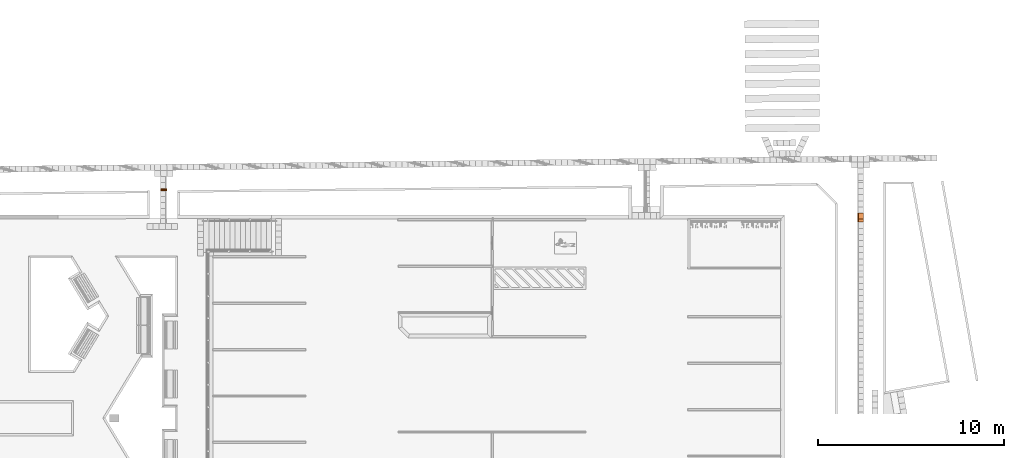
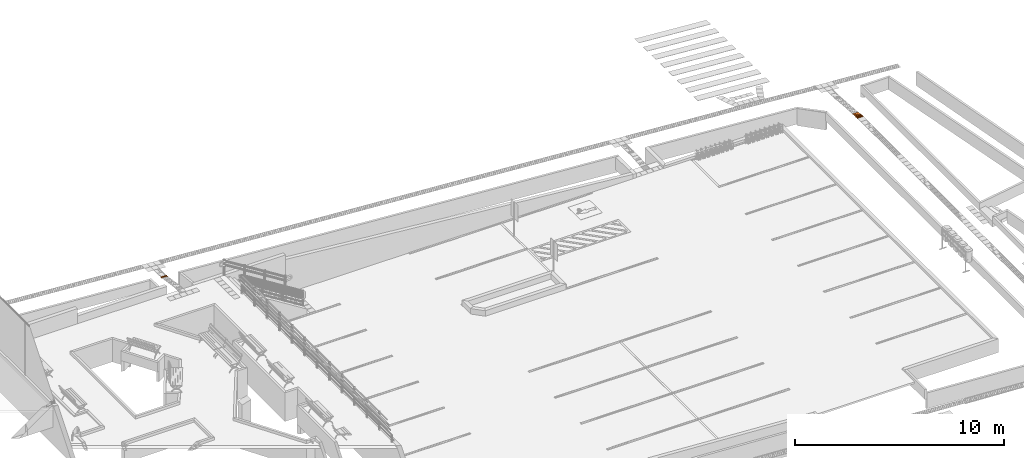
# One storey, part 232 of 237: 3 proxies.
"""IFC2X3 building model written with IfcOpenShell, lengths in millimetres."""

import ifcopenshell
import ifcopenshell.guid

model = None  # the IFC model being written
_history = None  # IfcOwnerHistory: only IFC2X3 demands one
_inside = {}  # id of a spatial element -> (the spatial element, [elements in it])
_under = {}  # id of a project, library or spatial element -> (it, [spatial elements below it])
_declared = {}  # id of a project -> (the project, [libraries it declares])
_typed = {}  # id of a type object -> (the type object, [elements of that type])
_made_of = {}  # id of a material, layer set ... -> (it, [elements and type objects made of it])


def new_model(schema):
    """Start an empty IFC model of exactly this schema.

    Asked for "IFC4X3", IfcOpenShell would pick the latest addendum, in which some entities
    have other attributes; the version numbers below select the first issue.
    IFC2X3 requires an IfcOwnerHistory on every rooted entity: one is made here for all.
    """
    global model, _history
    if schema == "IFC4X3":
        model = ifcopenshell.file(schema_version=(4, 3, 0, 0))
    else:
        model = ifcopenshell.file(schema=schema)
    _inside.clear()
    _under.clear()
    _declared.clear()
    _typed.clear()
    _made_of.clear()
    _history = None
    if model.schema == "IFC2X3":
        org = make("IfcOrganization", Name="unknown")
        user = make(
            "IfcPersonAndOrganization",
            ThePerson=make("IfcPerson", FamilyName="unknown"),
            TheOrganization=org,
        )
        app = make(
            "IfcApplication",
            ApplicationDeveloper=org,
            Version="unknown",
            ApplicationFullName="unknown",
            ApplicationIdentifier="unknown",
        )
        _history = make(
            "IfcOwnerHistory",
            OwningUser=user,
            OwningApplication=app,
            ChangeAction="ADDED",
            CreationDate=0,
        )
    return model


def make(cls, **values):
    """One entity of the class cls with the attributes given. An attribute that is None is left unset."""
    return model.create_entity(
        cls, **{name: value for name, value in values.items() if value is not None}
    )


def entity(cls, *values):
    """Any entity or typed value of the class cls, its attributes in the order of the schema. None: left unset."""
    e = model.create_entity(cls)
    for i, value in enumerate(values):
        if value is not None:
            e[i] = value
    return e


def rooted(cls, **values):
    """An entity with a GlobalId (a new one), such as an element, a storey or a relation."""
    return make(cls, GlobalId=ifcopenshell.guid.new(), OwnerHistory=_history, **values)


def si_unit(unit_type, name, prefix=None):
    """IfcSIUnit, for example si_unit("LENGTHUNIT", "METRE", prefix="MILLI")."""
    return make("IfcSIUnit", UnitType=unit_type, Prefix=prefix, Name=name)


def converted_unit(unit_type, name, factor, base, dimensions=None, offset=None):
    """IfcConversionBasedUnit, such as the inch: factor (a typed value) times the base unit."""
    return make(
        "IfcConversionBasedUnit"
        if offset is None
        else "IfcConversionBasedUnitWithOffset",
        ConversionOffset=offset,
        Dimensions=None
        if dimensions is None
        else entity("IfcDimensionalExponents", *dimensions),
        UnitType=unit_type,
        Name=name,
        ConversionFactor=make(
            "IfcMeasureWithUnit", ValueComponent=factor, UnitComponent=base
        ),
    )


def derived_unit(unit_type, elements):
    """IfcDerivedUnit: a product of units, each with its exponent."""
    return make(
        "IfcDerivedUnit",
        Elements=[
            make("IfcDerivedUnitElement", Unit=unit, Exponent=power)
            for unit, power in elements
        ],
        UnitType=unit_type,
    )


def money_unit(currency):
    """IfcMonetaryUnit."""
    return make("IfcMonetaryUnit", Currency=currency)


def assignment(units):
    """IfcUnitAssignment: the units of a project."""
    return None if units is None else make("IfcUnitAssignment", Units=units)


def point(xyz):
    """IfcCartesianPoint."""
    return None if xyz is None else make("IfcCartesianPoint", Coordinates=xyz)


def direction(xyz):
    """IfcDirection."""
    return None if xyz is None else make("IfcDirection", DirectionRatios=xyz)


def frame(location, z_axis=None, x_axis=None):
    """IfcAxis2Placement3D, a coordinate frame: its origin and axes. An axis left out is left unset."""
    return make(
        "IfcAxis2Placement3D",
        Location=point(location),
        Axis=direction(z_axis),
        RefDirection=direction(x_axis),
    )


def origin_with_axes():
    """The frame at (0, 0, 0) with the z axis (0, 0, 1) and the x axis (1, 0, 0) written out."""
    return frame((0.0, 0.0, 0.0), z_axis=(0.0, 0.0, 1.0), x_axis=(1.0, 0.0, 0.0))


def place(relative_to, where):
    """IfcLocalPlacement: puts the frame where relative to a parent placement (None: the world)."""
    return make(
        "IfcLocalPlacement", PlacementRelTo=relative_to, RelativePlacement=where
    )


def context(
    kind, dimensions, precision=None, world=None, true_north=None, identifier=None
):
    """IfcGeometricRepresentationContext, for example the 3D "Model" context."""
    return make(
        "IfcGeometricRepresentationContext",
        ContextIdentifier=identifier,
        ContextType=kind,
        CoordinateSpaceDimension=dimensions,
        Precision=precision,
        WorldCoordinateSystem=world,
        TrueNorth=true_north,
    )


def subcontext(parent, identifier, kind, view, scale=None):
    """IfcGeometricRepresentationSubContext, for example "Body" below "Model"."""
    return make(
        "IfcGeometricRepresentationSubContext",
        ContextIdentifier=identifier,
        ContextType=kind,
        ParentContext=parent,
        TargetScale=scale,
        TargetView=view,
    )


def project(units=None, contexts=None):
    """IfcProject with its units and contexts."""
    return rooted(
        "IfcProject",
        Name="project",
        RepresentationContexts=contexts,
        UnitsInContext=assignment(units),
    )


def spatial(cls, under=None, at=None, **own):
    """A site, building, storey or space (cls), placed at a placement, below another one or the project."""
    s = rooted(cls, ObjectPlacement=at, **own)
    if under is not None:
        _under.setdefault(under.id(), (under, []))[1].append(s)
    return s


def faces_of(points, faces, orient=None, outer=None):
    """IfcFace entities. A face is a list of loops; a loop is a list of indices into points, from 0.

    orient and outer hold one flag for each loop. By default every Orientation is true, the
    first loop of a face is its IfcFaceOuterBound and the others are IfcFaceBound.
    """
    made = []
    for i, loops in enumerate(faces):
        bounds = []
        for j, loop in enumerate(loops):
            is_outer = j == 0 if outer is None else outer[i][j]
            bounds.append(
                make(
                    "IfcFaceOuterBound" if is_outer else "IfcFaceBound",
                    Bound=make("IfcPolyLoop", Polygon=[points[k] for k in loop]),
                    Orientation=True if orient is None else orient[i][j],
                )
            )
        made.append(make("IfcFace", Bounds=bounds))
    return made


def open_shell(faces, orient=None, outer=None):
    """The faces of one IfcOpenShell. surface_model builds it on its shared points."""
    return ("IfcOpenShell", faces, orient, outer)


def surface_model(cls, points, shells):
    """IfcFaceBasedSurfaceModel or IfcShellBasedSurfaceModel (cls): surfaces that need not close."""
    shared = [point(p) for p in points]
    made = [make(c, CfsFaces=faces_of(shared, fs, o, b)) for c, fs, o, b in shells]
    if cls == "IfcFaceBasedSurfaceModel":
        return make(cls, FbsmFaces=made)
    return make(cls, SbsmBoundary=made)


def shape(context_of_items, identifier, shape_type, items):
    """IfcShapeRepresentation: the items that make up one representation, for example the "Body"."""
    return make(
        "IfcShapeRepresentation",
        ContextOfItems=context_of_items,
        RepresentationIdentifier=identifier,
        RepresentationType=shape_type,
        Items=items,
    )


def made_of(thing, what):
    """Note that an element or type object is made of a material, layer set ...; save() writes the relation."""
    if what is not None:
        _made_of.setdefault(what.id(), (what, []))[1].append(thing)
    return thing


def type_object(cls, material=None, **own):
    """A type object (cls), such as IfcWallType, which elements share."""
    return made_of(rooted(cls, **own), material)


def element(
    cls,
    number,
    at=None,
    inside=None,
    cuts=None,
    type_object=None,
    material=None,
    context=None,
    identifier="Body",
    shape_type=None,
    held_by="IfcProductDefinitionShape",
    body=None,
    shapes=None,
    **own,
):
    """One element of the class cls, such as IfcWall. Its Tag is "e" and its number.

    at: its placement. inside: the storey or other place that contains it. cuts: it is an
    opening in that element (IfcRelVoidsElement). A single representation is given by context,
    identifier, shape_type and body (its items); several are given by shapes. held_by: the class
    of the entity that holds the representations. save() writes the other relations.
    """
    e = rooted(cls, Tag="e%d" % number, ObjectPlacement=at, **own)
    if body is not None:
        shapes = [shape(context, identifier, shape_type, body)]
    if shapes is not None:
        e.Representation = make(held_by, Representations=shapes)
    if inside is not None:
        _inside.setdefault(inside.id(), (inside, []))[1].append(e)
    if cuts is not None:
        rooted(
            "IfcRelVoidsElement", RelatingBuildingElement=cuts, RelatedOpeningElement=e
        )
    if type_object is not None:
        _typed.setdefault(type_object.id(), (type_object, []))[1].append(e)
    return made_of(e, material)


def aggregate(whole, parts):
    """IfcRelAggregates: a whole, such as a stair, and the parts it consists of."""
    return rooted("IfcRelAggregates", RelatingObject=whole, RelatedObjects=parts)


def save(model, path):
    """Write the relations noted so far, then the file.

    IfcRelAggregates (storeys below a building ...), IfcRelContainedInSpatialStructure (elements
    in a storey), IfcRelDefinesByType, IfcRelAssociatesMaterial and IfcRelDeclares: one each for
    every whole, place, type object, material and project.
    """
    for whole, parts in _under.values():
        aggregate(whole, parts)
    for where, things in _inside.values():
        rooted(
            "IfcRelContainedInSpatialStructure",
            RelatedElements=things,
            RelatingStructure=where,
        )
    for kind, things in _typed.values():
        rooted("IfcRelDefinesByType", RelatedObjects=things, RelatingType=kind)
    for what, things in _made_of.values():
        rooted("IfcRelAssociatesMaterial", RelatedObjects=things, RelatingMaterial=what)
    for by, libraries in _declared.values():
        rooted("IfcRelDeclares", RelatingContext=by, RelatedDefinitions=libraries)
    model.write(path)


model = new_model("IFC2X3")

# Units and contexts
model_context = context("Model", 3, precision=0.01, world=origin_with_axes(), true_north=direction((0.0, 1.0)))
body_context = subcontext(model_context, "Body", "Model", "MODEL_VIEW")
ifc_project = project(units=[si_unit("LENGTHUNIT", "METRE", prefix="MILLI"), si_unit("AREAUNIT", "SQUARE_METRE"), si_unit("VOLUMEUNIT", "CUBIC_METRE"), converted_unit("PLANEANGLEUNIT", "DEGREE", entity("IfcPlaneAngleMeasure", 0.0174532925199), si_unit("PLANEANGLEUNIT", "RADIAN"), dimensions=[0, 0, 0, 0, 0, 0, 0]), money_unit("USD"), converted_unit("TIMEUNIT", "Year", entity("IfcTimeMeasure", 31556926.0), si_unit("TIMEUNIT", "SECOND"), dimensions=[0, 0, 1, 0, 0, 0, 0]), si_unit("MASSUNIT", "GRAM", prefix="KILO"), si_unit("THERMODYNAMICTEMPERATUREUNIT", "DEGREE_CELSIUS"), si_unit("LUMINOUSINTENSITYUNIT", "LUMEN"), si_unit("ENERGYUNIT", "JOULE", prefix="MEGA"), derived_unit("THERMALCONDUCTANCEUNIT", [(si_unit("POWERUNIT", "WATT"), 1), (si_unit("LENGTHUNIT", "METRE"), -1), (si_unit("THERMODYNAMICTEMPERATUREUNIT", "KELVIN"), -1)]), derived_unit("SPECIFICHEATCAPACITYUNIT", [(si_unit("ENERGYUNIT", "JOULE"), 1), (si_unit("MASSUNIT", "GRAM", prefix="KILO"), -1), (si_unit("THERMODYNAMICTEMPERATUREUNIT", "KELVIN"), -1)]), derived_unit("MASSDENSITYUNIT", [(si_unit("MASSUNIT", "GRAM", prefix="KILO"), 1), (si_unit("VOLUMEUNIT", "CUBIC_METRE"), -1)])], contexts=[model_context])

# Site, building, storey
site_placement = place(None, origin_with_axes())
site = spatial("IfcSite", under=ifc_project, at=site_placement, Name="Local", CompositionType="ELEMENT")
building_placement = place(site_placement, origin_with_axes())
building = spatial("IfcBuilding", under=site, at=building_placement, Name="Construção", CompositionType="ELEMENT")
storey_placement = place(building_placement, origin_with_axes())
storey = spatial("IfcBuildingStorey", under=building, at=storey_placement, Name="Pavimento Térreo", CompositionType="ELEMENT", Elevation=0.0)

# Proxies
building_element_proxy_type = type_object("IfcBuildingElementProxyType", Name="Piso Direcional 27", PredefinedType="NOTDEFINED")
proxy_1_placement = place(storey_placement, frame((97801.7189326, 36071.4514011, -5186.38961676), z_axis=(0.0, 0.0, 1.0), x_axis=(0.0, -1.0, 0.0)))
element("IfcBuildingElementProxy", 1, at=proxy_1_placement, inside=storey, type_object=building_element_proxy_type, Name="Objeto-0055", context=body_context, shape_type="SurfaceModel", body=[
    surface_model("IfcShellBasedSurfaceModel", [(-0.06669038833, -46.8098794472, 7.64196157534), (99.4543591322, -46.8098794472, 8.5104686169), (99.4000983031, -40.7216835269, 14.7281437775), (-0.120951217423, -40.7216835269, 13.859636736)], [open_shell([[[0, 1, 2, 3]]])]),
    surface_model("IfcShellBasedSurfaceModel", [(99.4992223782, -153.790778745, 3.36964981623), (99.7201545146, 175.23662949, -21.9466654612), (99.6041436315, 176.259549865, -8.65313496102), (99.5891651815, 153.952606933, -6.93677460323), (99.5274151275, 148.887331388, 0.139080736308), (99.5124366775, 126.580388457, 1.8554410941), (99.5666975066, 120.492192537, -4.36223406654), (99.5329959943, 70.3015709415, -0.500423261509), (99.4712459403, 65.2362953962, 6.57543207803), (99.4562674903, 42.929352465, 8.29179243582), (99.5105283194, 36.8411565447, 2.07411727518), (99.4768268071, -13.3494650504, 5.93592808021), (99.415076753, -18.4147405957, 13.0117834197), (99.4000983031, -40.7216835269, 14.7281437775), (99.4543591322, -46.8098794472, 8.5104686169), (99.4206576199, -97.0005010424, 12.3722794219), (99.3589075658, -102.065776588, 19.4481347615), (99.3439291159, -124.372719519, 21.1644951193), (99.398189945, -130.460915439, 14.9468199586), (99.3832114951, -152.76785837, 16.6631803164)], [open_shell([[[0, 1, 2, 3, 4, 5, 6, 7, 8, 9, 10, 11, 12, 13, 14, 15, 16, 17, 18, 19]]])]),
    surface_model("IfcShellBasedSurfaceModel", [(-0.105972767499, -18.4147405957, 12.1432763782), (99.415076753, -18.4147405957, 13.0117834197), (99.4768268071, -13.3494650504, 5.93592808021), (-0.0442227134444, -13.3494650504, 5.06742103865)], [open_shell([[[0, 1, 2, 3]]])]),
    surface_model("IfcShellBasedSurfaceModel", [(-0.162141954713, -102.065776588, 18.5796277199), (99.3589075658, -102.065776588, 19.4481347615), (99.4206576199, -97.0005010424, 12.3722794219), (-0.100391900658, -97.0005010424, 11.5037723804)], [open_shell([[[0, 1, 2, 3]]])]),
    surface_model("IfcShellBasedSurfaceModel", [(-0.049803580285, 65.2362953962, 5.70692503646), (99.4712459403, 65.2362953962, 6.57543207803), (99.5329959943, 70.3015709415, -0.500423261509), (0.0119464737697, 70.3015709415, -1.36893030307)], [open_shell([[[0, 1, 2, 3]]])]),
    surface_model("IfcShellBasedSurfaceModel", [(-0.010521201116, 36.8411565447, 1.20561023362), (99.5105283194, 36.8411565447, 2.07411727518), (99.4562674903, 42.929352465, 8.29179243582), (-0.0647820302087, 42.929352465, 7.42328539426)], [open_shell([[[0, 1, 2, 3]]])]),
    surface_model("IfcShellBasedSurfaceModel", [(-0.122859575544, -130.460915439, 14.0783129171), (99.398189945, -130.460915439, 14.9468199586), (99.3439291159, -124.372719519, 21.1644951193), (-0.177120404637, -124.372719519, 20.2959880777)], [open_shell([[[0, 1, 2, 3]]])]),
    surface_model("IfcShellBasedSurfaceModel", [(0.0830941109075, 176.259549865, -9.52164200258), (0.0681156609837, 153.952606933, -7.80528164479), (99.5891651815, 153.952606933, -6.93677460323), (99.6041436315, 176.259549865, -8.65313496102)], [open_shell([[[0, 1, 2, 3]]])]),
    surface_model("IfcShellBasedSurfaceModel", [(0.0456479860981, 120.492192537, -5.2307411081), (99.5666975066, 120.492192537, -4.36223406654), (99.5124366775, 126.580388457, 1.8554410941), (-0.00861284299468, 126.580388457, 0.986934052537)], [open_shell([[[0, 1, 2, 3]]])]),
    surface_model("IfcShellBasedSurfaceModel", [(0.00636560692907, 148.887331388, -0.729426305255), (99.5274151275, 148.887331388, 0.139080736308), (99.5891651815, 153.952606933, -6.93677460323), (0.0681156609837, 153.952606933, -7.80528164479)], [open_shell([[[0, 1, 2, 3]]])]),
    surface_model("IfcShellBasedSurfaceModel", [(-0.010521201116, 36.8411565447, 1.20561023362), (-0.0442227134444, -13.3494650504, 5.06742103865), (99.4768268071, -13.3494650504, 5.93592808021), (99.5105283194, 36.8411565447, 2.07411727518)], [open_shell([[[0, 1, 2, 3]]])]),
    surface_model("IfcShellBasedSurfaceModel", [(0.0456479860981, 120.492192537, -5.2307411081), (0.0119464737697, 70.3015709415, -1.36893030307), (99.5329959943, 70.3015709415, -0.500423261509), (99.5666975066, 120.492192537, -4.36223406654)], [open_shell([[[0, 1, 2, 3]]])]),
    surface_model("IfcShellBasedSurfaceModel", [(0.00636560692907, 148.887331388, -0.729426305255), (-0.00861284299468, 126.580388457, 0.986934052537), (99.5124366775, 126.580388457, 1.8554410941), (99.5274151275, 148.887331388, 0.139080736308)], [open_shell([[[0, 1, 2, 3]]])]),
    surface_model("IfcShellBasedSurfaceModel", [(0.0456479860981, 120.492192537, -5.2307411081), (-0.00861284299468, 126.580388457, 0.986934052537), (0.00636560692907, 148.887331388, -0.729426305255), (0.0681156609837, 153.952606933, -7.80528164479), (0.0830941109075, 176.259549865, -9.52164200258), (0.199104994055, 175.23662949, -22.8151725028), (-0.0218271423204, -153.790778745, 2.50114277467), (-0.137838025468, -152.76785837, 15.7946732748), (-0.122859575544, -130.460915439, 14.0783129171), (-0.177120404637, -124.372719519, 20.2959880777), (-0.162141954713, -102.065776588, 18.5796277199), (-0.100391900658, -97.0005010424, 11.5037723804), (-0.06669038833, -46.8098794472, 7.64196157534), (-0.120951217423, -40.7216835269, 13.859636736), (-0.105972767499, -18.4147405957, 12.1432763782), (-0.0442227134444, -13.3494650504, 5.06742103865), (-0.010521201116, 36.8411565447, 1.20561023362), (-0.0647820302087, 42.929352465, 7.42328539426), (-0.049803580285, 65.2362953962, 5.70692503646), (0.0119464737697, 70.3015709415, -1.36893030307)], [open_shell([[[0, 1, 2, 3, 4, 5, 6, 7, 8, 9, 10, 11, 12, 13, 14, 15, 16, 17, 18, 19]]])]),
    surface_model("IfcShellBasedSurfaceModel", [(99.4000983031, -40.7216835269, 14.7281437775), (99.415076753, -18.4147405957, 13.0117834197), (-0.105972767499, -18.4147405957, 12.1432763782), (-0.120951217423, -40.7216835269, 13.859636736)], [open_shell([[[0, 1, 2, 3]]])]),
    surface_model("IfcShellBasedSurfaceModel", [(-0.06669038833, -46.8098794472, 7.64196157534), (-0.100391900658, -97.0005010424, 11.5037723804), (99.4206576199, -97.0005010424, 12.3722794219), (99.4543591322, -46.8098794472, 8.5104686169)], [open_shell([[[0, 1, 2, 3]]])]),
    surface_model("IfcShellBasedSurfaceModel", [(99.4562674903, 42.929352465, 8.29179243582), (99.4712459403, 65.2362953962, 6.57543207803), (-0.049803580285, 65.2362953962, 5.70692503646), (-0.0647820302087, 42.929352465, 7.42328539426)], [open_shell([[[0, 1, 2, 3]]])]),
    surface_model("IfcShellBasedSurfaceModel", [(99.3439291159, -124.372719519, 21.1644951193), (99.3589075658, -102.065776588, 19.4481347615), (-0.162141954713, -102.065776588, 18.5796277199), (-0.177120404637, -124.372719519, 20.2959880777)], [open_shell([[[0, 1, 2, 3]]])]),
    surface_model("IfcShellBasedSurfaceModel", [(99.7201545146, 175.23662949, -21.9466654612), (0.199104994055, 175.23662949, -22.8151725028), (0.0830941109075, 176.259549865, -9.52164200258), (99.6041436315, 176.259549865, -8.65313496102)], [open_shell([[[0, 1, 2, 3]]])]),
    surface_model("IfcShellBasedSurfaceModel", [(99.4992223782, -153.790778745, 3.36964981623), (-0.0218271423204, -153.790778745, 2.50114277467), (0.199104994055, 175.23662949, -22.8151725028), (99.7201545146, 175.23662949, -21.9466654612)], [open_shell([[[0, 1, 2, 3]]])]),
    surface_model("IfcShellBasedSurfaceModel", [(99.3832114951, -152.76785837, 16.6631803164), (99.398189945, -130.460915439, 14.9468199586), (-0.122859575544, -130.460915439, 14.0783129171), (-0.137838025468, -152.76785837, 15.7946732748)], [open_shell([[[0, 1, 2, 3]]])]),
    surface_model("IfcShellBasedSurfaceModel", [(-0.0218271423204, -153.790778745, 2.50114277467), (99.4992223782, -153.790778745, 3.36964981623), (99.3832114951, -152.76785837, 16.6631803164), (-0.137838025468, -152.76785837, 15.7946732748)], [open_shell([[[0, 1, 2, 3]]])]),
])
proxy_2_placement = place(storey_placement, frame((135346.086311, 34760.1183763, -7981.55592405), z_axis=(0.0, 0.0, 1.0), x_axis=(0.0, -1.0, 0.0)))
element("IfcBuildingElementProxy", 2, at=proxy_2_placement, inside=storey, type_object=building_element_proxy_type, Name="Objeto-0055", context=body_context, shape_type="SurfaceModel", body=[
    surface_model("IfcShellBasedSurfaceModel", [(-0.441716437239, -47.0050131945, 6.31683934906), (328.754420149, -47.0050131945, 29.3364756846), (328.308991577, -41.0928052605, 35.7064010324), (-0.88714500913, -41.0928052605, 12.6867646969)], [open_shell([[[0, 1, 2, 3]]])]),
    surface_model("IfcShellBasedSurfaceModel", [(329.321267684, -153.800656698, 21.2301782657), (330.445771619, 175.805368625, 5.14902277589), (329.516795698, 176.456698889, 18.4339973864), (329.440558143, 154.11052768, 19.5242452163), (328.957010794, 148.84965001, 26.439294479), (328.880773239, 126.503478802, 27.5295423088), (329.326201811, 120.591270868, 21.159616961), (329.154667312, 70.3123856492, 23.6126745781), (328.671119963, 65.051507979, 30.5277238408), (328.594882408, 42.7053367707, 31.6179716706), (329.04031098, 36.7931288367, 25.2480463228), (328.868776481, -13.485756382, 27.7011039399), (328.385229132, -18.7466340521, 34.6161532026), (328.308991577, -41.0928052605, 35.7064010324), (328.754420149, -47.0050131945, 29.3364756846), (328.58288565, -97.2838984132, 31.7895333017), (328.0993383, -102.544776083, 38.7045825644), (328.023100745, -124.890947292, 39.7948303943), (328.468529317, -130.803155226, 33.4249050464), (328.392291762, -153.149326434, 34.5151528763)], [open_shell([[[0, 1, 2, 3, 4, 5, 6, 7, 8, 9, 10, 11, 12, 13, 14, 15, 16, 17, 18, 19]]])]),
    surface_model("IfcShellBasedSurfaceModel", [(-0.810907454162, -18.7466340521, 11.5965168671), (328.385229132, -18.7466340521, 34.6161532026), (328.868776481, -13.485756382, 27.7011039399), (-0.327360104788, -13.485756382, 4.68146760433)], [open_shell([[[0, 1, 2, 3]]])]),
    surface_model("IfcShellBasedSurfaceModel", [(-1.09679828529, -102.544776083, 15.6849462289), (328.0993383, -102.544776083, 38.7045825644), (328.58288565, -97.2838984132, 31.7895333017), (-0.613250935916, -97.2838984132, 8.76989696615)], [open_shell([[[0, 1, 2, 3]]])]),
    surface_model("IfcShellBasedSurfaceModel", [(-0.525016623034, 65.051507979, 7.50808750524), (328.671119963, 65.051507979, 30.5277238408), (329.154667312, 70.3123856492, 23.6126745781), (-0.0414692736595, 70.3123856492, 0.593038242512)], [open_shell([[[0, 1, 2, 3]]])]),
    surface_model("IfcShellBasedSurfaceModel", [(-0.155825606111, 36.7931288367, 2.22840998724), (329.04031098, 36.7931288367, 25.2480463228), (328.594882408, 42.7053367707, 31.6179716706), (-0.601254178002, 42.7053367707, 8.59833533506)], [open_shell([[[0, 1, 2, 3]]])]),
    surface_model("IfcShellBasedSurfaceModel", [(-0.727607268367, -130.803155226, 10.4052687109), (328.468529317, -130.803155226, 33.4249050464), (328.023100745, -124.890947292, 39.7948303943), (-1.17303584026, -124.890947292, 16.7751940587)], [open_shell([[[0, 1, 2, 3]]])]),
    surface_model("IfcShellBasedSurfaceModel", [(0.320659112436, 176.456698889, -4.58563894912), (0.244421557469, 154.11052768, -3.49539111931), (329.440558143, 154.11052768, 19.5242452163), (329.516795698, 176.456698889, 18.4339973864)], [open_shell([[[0, 1, 2, 3]]])]),
    surface_model("IfcShellBasedSurfaceModel", [(0.130065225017, 120.591270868, -1.86001937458), (329.326201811, 120.591270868, 21.159616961), (328.880773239, 126.503478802, 27.5295423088), (-0.315363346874, 126.503478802, 4.50990597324)], [open_shell([[[0, 1, 2, 3]]])]),
    surface_model("IfcShellBasedSurfaceModel", [(-0.239125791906, 148.84965001, 3.41965814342), (328.957010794, 148.84965001, 26.439294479), (329.440558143, 154.11052768, 19.5242452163), (0.244421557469, 154.11052768, -3.49539111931)], [open_shell([[[0, 1, 2, 3]]])]),
    surface_model("IfcShellBasedSurfaceModel", [(-0.155825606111, 36.7931288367, 2.22840998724), (-0.327360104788, -13.485756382, 4.68146760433), (328.868776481, -13.485756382, 27.7011039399), (329.04031098, 36.7931288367, 25.2480463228)], [open_shell([[[0, 1, 2, 3]]])]),
    surface_model("IfcShellBasedSurfaceModel", [(0.130065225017, 120.591270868, -1.86001937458), (-0.0414692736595, 70.3123856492, 0.593038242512), (329.154667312, 70.3123856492, 23.6126745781), (329.326201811, 120.591270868, 21.159616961)], [open_shell([[[0, 1, 2, 3]]])]),
    surface_model("IfcShellBasedSurfaceModel", [(-0.239125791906, 148.84965001, 3.41965814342), (-0.315363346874, 126.503478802, 4.50990597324), (328.880773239, 126.503478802, 27.5295423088), (328.957010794, 148.84965001, 26.439294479)], [open_shell([[[0, 1, 2, 3]]])]),
    surface_model("IfcShellBasedSurfaceModel", [(0.130065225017, 120.591270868, -1.86001937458), (-0.315363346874, 126.503478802, 4.50990597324), (-0.239125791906, 148.84965001, 3.41965814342), (0.244421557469, 154.11052768, -3.49539111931), (0.320659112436, 176.456698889, -4.58563894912), (1.2496350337, 175.805368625, -17.8706135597), (0.125131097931, -153.800656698, -1.78945806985), (-0.803844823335, -153.149326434, 11.4955165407), (-0.727607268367, -130.803155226, 10.4052687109), (-1.17303584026, -124.890947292, 16.7751940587), (-1.09679828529, -102.544776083, 15.6849462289), (-0.613250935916, -97.2838984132, 8.76989696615), (-0.441716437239, -47.0050131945, 6.31683934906), (-0.88714500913, -41.0928052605, 12.6867646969), (-0.810907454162, -18.7466340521, 11.5965168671), (-0.327360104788, -13.485756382, 4.68146760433), (-0.155825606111, 36.7931288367, 2.22840998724), (-0.601254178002, 42.7053367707, 8.59833533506), (-0.525016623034, 65.051507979, 7.50808750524), (-0.0414692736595, 70.3123856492, 0.593038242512)], [open_shell([[[0, 1, 2, 3, 4, 5, 6, 7, 8, 9, 10, 11, 12, 13, 14, 15, 16, 17, 18, 19]]])]),
    surface_model("IfcShellBasedSurfaceModel", [(328.308991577, -41.0928052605, 35.7064010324), (328.385229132, -18.7466340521, 34.6161532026), (-0.810907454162, -18.7466340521, 11.5965168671), (-0.88714500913, -41.0928052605, 12.6867646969)], [open_shell([[[0, 1, 2, 3]]])]),
    surface_model("IfcShellBasedSurfaceModel", [(-0.441716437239, -47.0050131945, 6.31683934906), (-0.613250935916, -97.2838984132, 8.76989696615), (328.58288565, -97.2838984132, 31.7895333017), (328.754420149, -47.0050131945, 29.3364756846)], [open_shell([[[0, 1, 2, 3]]])]),
    surface_model("IfcShellBasedSurfaceModel", [(328.594882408, 42.7053367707, 31.6179716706), (328.671119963, 65.051507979, 30.5277238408), (-0.525016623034, 65.051507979, 7.50808750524), (-0.601254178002, 42.7053367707, 8.59833533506)], [open_shell([[[0, 1, 2, 3]]])]),
    surface_model("IfcShellBasedSurfaceModel", [(328.023100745, -124.890947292, 39.7948303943), (328.0993383, -102.544776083, 38.7045825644), (-1.09679828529, -102.544776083, 15.6849462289), (-1.17303584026, -124.890947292, 16.7751940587)], [open_shell([[[0, 1, 2, 3]]])]),
    surface_model("IfcShellBasedSurfaceModel", [(330.445771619, 175.805368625, 5.14902277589), (1.2496350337, 175.805368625, -17.8706135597), (0.320659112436, 176.456698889, -4.58563894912), (329.516795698, 176.456698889, 18.4339973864)], [open_shell([[[0, 1, 2, 3]]])]),
    surface_model("IfcShellBasedSurfaceModel", [(329.321267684, -153.800656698, 21.2301782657), (0.125131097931, -153.800656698, -1.78945806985), (1.2496350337, 175.805368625, -17.8706135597), (330.445771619, 175.805368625, 5.14902277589)], [open_shell([[[0, 1, 2, 3]]])]),
    surface_model("IfcShellBasedSurfaceModel", [(328.392291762, -153.149326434, 34.5151528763), (328.468529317, -130.803155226, 33.4249050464), (-0.727607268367, -130.803155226, 10.4052687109), (-0.803844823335, -153.149326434, 11.4955165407)], [open_shell([[[0, 1, 2, 3]]])]),
    surface_model("IfcShellBasedSurfaceModel", [(0.125131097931, -153.800656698, -1.78945806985), (329.321267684, -153.800656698, 21.2301782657), (328.392291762, -153.149326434, 34.5151528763), (-0.803844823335, -153.149326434, 11.4955165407)], [open_shell([[[0, 1, 2, 3]]])]),
])
proxy_3_placement = place(storey_placement, frame((135346.086311, 34430.5485311, -7956.05952445), z_axis=(0.0, 0.0, 1.0), x_axis=(0.0, -1.0, 0.0)))
element("IfcBuildingElementProxy", 3, at=proxy_3_placement, inside=storey, type_object=building_element_proxy_type, Name="Objeto-0055", context=body_context, shape_type="SurfaceModel", body=[
    surface_model("IfcShellBasedSurfaceModel", [(-0.132415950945, -47.1590974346, 5.05676115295), (159.150365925, -47.1590974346, 9.22772758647), (158.979088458, -41.4217755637, 15.7685501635), (-0.303693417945, -41.4217755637, 11.59758373)], [open_shell([[[0, 1, 2, 3]]])]),
    surface_model("IfcShellBasedSurfaceModel", [(159.438622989, -153.695859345, -1.78036556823), (159.627068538, 176.225609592, -8.97681074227), (159.278125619, 176.516474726, 4.34878170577), (159.265349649, 154.14891751, 4.83667629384), (159.087684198, 148.702460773, 11.6214461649), (159.074908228, 126.334903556, 12.1093407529), (159.246185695, 120.597581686, 5.56851817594), (159.217439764, 70.2705779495, 6.6662809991), (159.039774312, 64.8241212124, 13.4510508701), (159.026998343, 42.4565639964, 13.9389454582), (159.19827581, 36.7192421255, 7.39812288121), (159.169529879, -13.6077616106, 8.49588570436), (158.991864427, -19.0542183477, 15.2806555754), (158.979088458, -41.4217755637, 15.7685501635), (159.150365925, -47.1590974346, 9.22772758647), (159.121619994, -97.4861011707, 10.3254904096), (158.943954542, -102.932557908, 17.1102602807), (158.931178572, -125.300115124, 17.5981548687), (159.102456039, -131.037436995, 11.0573322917), (159.08968007, -153.404994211, 11.5452268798)], [open_shell([[[0, 1, 2, 3, 4, 5, 6, 7, 8, 9, 10, 11, 12, 13, 14, 15, 16, 17, 18, 19]]])]),
    surface_model("IfcShellBasedSurfaceModel", [(-0.290917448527, -19.0542183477, 11.1096891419), (158.991864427, -19.0542183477, 15.2806555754), (159.169529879, -13.6077616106, 8.49588570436), (-0.113251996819, -13.6077616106, 4.32491927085)], [open_shell([[[0, 1, 2, 3]]])]),
    surface_model("IfcShellBasedSurfaceModel", [(-0.338827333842, -102.932557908, 12.9392938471), (158.943954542, -102.932557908, 17.1102602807), (159.121619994, -97.4861011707, 10.3254904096), (-0.161161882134, -97.4861011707, 6.15452397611)], [open_shell([[[0, 1, 2, 3]]])]),
    surface_model("IfcShellBasedSurfaceModel", [(-0.243007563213, 64.8241212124, 9.28008443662), (159.039774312, 64.8241212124, 13.4510508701), (159.217439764, 70.2705779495, 6.6662809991), (-0.0653421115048, 70.2705779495, 2.49531456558)], [open_shell([[[0, 1, 2, 3]]])]),
    surface_model("IfcShellBasedSurfaceModel", [(-0.0845060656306, 36.7192421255, 3.22715644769), (159.19827581, 36.7192421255, 7.39812288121), (159.026998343, 42.4565639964, 13.9389454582), (-0.25578353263, 42.4565639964, 9.76797902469)], [open_shell([[[0, 1, 2, 3]]])]),
    surface_model("IfcShellBasedSurfaceModel", [(-0.18032583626, -131.037436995, 6.88636585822), (159.102456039, -131.037436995, 11.0573322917), (158.931178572, -125.300115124, 17.5981548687), (-0.351603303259, -125.300115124, 13.4271884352)], [open_shell([[[0, 1, 2, 3]]])]),
    surface_model("IfcShellBasedSurfaceModel", [(-0.00465625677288, 176.516474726, 0.177815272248), (-0.0174322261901, 154.14891751, 0.665709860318), (159.265349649, 154.14891751, 4.83667629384), (159.278125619, 176.516474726, 4.34878170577)], [open_shell([[[0, 1, 2, 3]]])]),
    surface_model("IfcShellBasedSurfaceModel", [(-0.036596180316, 120.597581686, 1.39755174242), (159.246185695, 120.597581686, 5.56851817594), (159.074908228, 126.334903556, 12.1093407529), (-0.207873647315, 126.334903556, 7.93837431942)], [open_shell([[[0, 1, 2, 3]]])]),
    surface_model("IfcShellBasedSurfaceModel", [(-0.195097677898, 148.702460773, 7.45047973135), (159.087684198, 148.702460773, 11.6214461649), (159.265349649, 154.14891751, 4.83667629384), (-0.0174322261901, 154.14891751, 0.665709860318)], [open_shell([[[0, 1, 2, 3]]])]),
    surface_model("IfcShellBasedSurfaceModel", [(-0.0845060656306, 36.7192421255, 3.22715644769), (-0.113251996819, -13.6077616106, 4.32491927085), (159.169529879, -13.6077616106, 8.49588570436), (159.19827581, 36.7192421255, 7.39812288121)], [open_shell([[[0, 1, 2, 3]]])]),
    surface_model("IfcShellBasedSurfaceModel", [(-0.036596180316, 120.597581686, 1.39755174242), (-0.0653421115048, 70.2705779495, 2.49531456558), (159.217439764, 70.2705779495, 6.6662809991), (159.246185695, 120.597581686, 5.56851817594)], [open_shell([[[0, 1, 2, 3]]])]),
    surface_model("IfcShellBasedSurfaceModel", [(-0.195097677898, 148.702460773, 7.45047973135), (-0.207873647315, 126.334903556, 7.93837431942), (159.074908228, 126.334903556, 12.1093407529), (159.087684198, 148.702460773, 11.6214461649)], [open_shell([[[0, 1, 2, 3]]])]),
    surface_model("IfcShellBasedSurfaceModel", [(-0.036596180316, 120.597581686, 1.39755174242), (-0.207873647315, 126.334903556, 7.93837431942), (-0.195097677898, 148.702460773, 7.45047973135), (-0.0174322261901, 154.14891751, 0.665709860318), (-0.00465625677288, 176.516474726, 0.177815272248), (0.344286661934, 176.225609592, -13.1477771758), (0.15584111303, -153.695859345, -5.95133200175), (-0.193101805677, -153.404994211, 7.37426044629), (-0.18032583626, -131.037436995, 6.88636585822), (-0.351603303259, -125.300115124, 13.4271884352), (-0.338827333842, -102.932557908, 12.9392938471), (-0.161161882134, -97.4861011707, 6.15452397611), (-0.132415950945, -47.1590974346, 5.05676115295), (-0.303693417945, -41.4217755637, 11.59758373), (-0.290917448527, -19.0542183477, 11.1096891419), (-0.113251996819, -13.6077616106, 4.32491927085), (-0.0845060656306, 36.7192421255, 3.22715644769), (-0.25578353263, 42.4565639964, 9.76797902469), (-0.243007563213, 64.8241212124, 9.28008443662), (-0.0653421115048, 70.2705779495, 2.49531456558)], [open_shell([[[0, 1, 2, 3, 4, 5, 6, 7, 8, 9, 10, 11, 12, 13, 14, 15, 16, 17, 18, 19]]])]),
    surface_model("IfcShellBasedSurfaceModel", [(158.979088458, -41.4217755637, 15.7685501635), (158.991864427, -19.0542183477, 15.2806555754), (-0.290917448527, -19.0542183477, 11.1096891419), (-0.303693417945, -41.4217755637, 11.59758373)], [open_shell([[[0, 1, 2, 3]]])]),
    surface_model("IfcShellBasedSurfaceModel", [(-0.132415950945, -47.1590974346, 5.05676115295), (-0.161161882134, -97.4861011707, 6.15452397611), (159.121619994, -97.4861011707, 10.3254904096), (159.150365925, -47.1590974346, 9.22772758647)], [open_shell([[[0, 1, 2, 3]]])]),
    surface_model("IfcShellBasedSurfaceModel", [(159.026998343, 42.4565639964, 13.9389454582), (159.039774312, 64.8241212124, 13.4510508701), (-0.243007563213, 64.8241212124, 9.28008443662), (-0.25578353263, 42.4565639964, 9.76797902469)], [open_shell([[[0, 1, 2, 3]]])]),
    surface_model("IfcShellBasedSurfaceModel", [(158.931178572, -125.300115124, 17.5981548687), (158.943954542, -102.932557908, 17.1102602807), (-0.338827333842, -102.932557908, 12.9392938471), (-0.351603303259, -125.300115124, 13.4271884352)], [open_shell([[[0, 1, 2, 3]]])]),
    surface_model("IfcShellBasedSurfaceModel", [(159.627068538, 176.225609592, -8.97681074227), (0.344286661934, 176.225609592, -13.1477771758), (-0.00465625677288, 176.516474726, 0.177815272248), (159.278125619, 176.516474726, 4.34878170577)], [open_shell([[[0, 1, 2, 3]]])]),
    surface_model("IfcShellBasedSurfaceModel", [(159.438622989, -153.695859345, -1.78036556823), (0.15584111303, -153.695859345, -5.95133200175), (0.344286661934, 176.225609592, -13.1477771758), (159.627068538, 176.225609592, -8.97681074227)], [open_shell([[[0, 1, 2, 3]]])]),
    surface_model("IfcShellBasedSurfaceModel", [(159.08968007, -153.404994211, 11.5452268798), (159.102456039, -131.037436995, 11.0573322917), (-0.18032583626, -131.037436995, 6.88636585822), (-0.193101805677, -153.404994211, 7.37426044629)], [open_shell([[[0, 1, 2, 3]]])]),
    surface_model("IfcShellBasedSurfaceModel", [(0.15584111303, -153.695859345, -5.95133200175), (159.438622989, -153.695859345, -1.78036556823), (159.08968007, -153.404994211, 11.5452268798), (-0.193101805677, -153.404994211, 7.37426044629)], [open_shell([[[0, 1, 2, 3]]])]),
])

save(model, "model.ifc")
